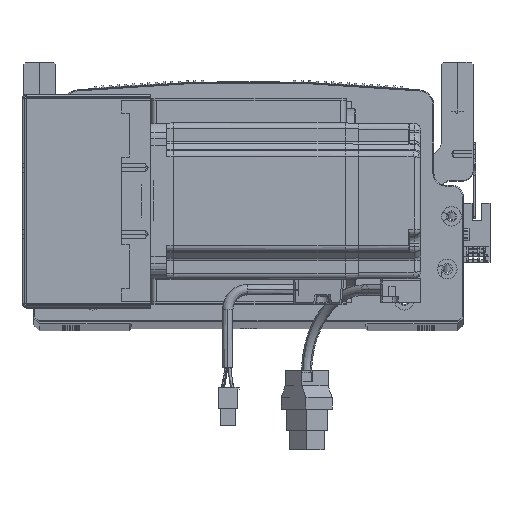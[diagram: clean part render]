
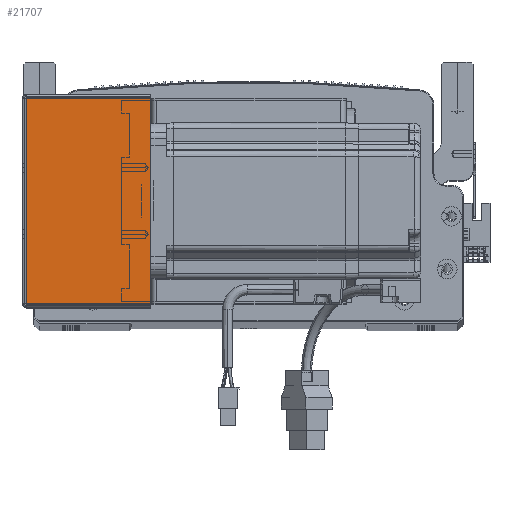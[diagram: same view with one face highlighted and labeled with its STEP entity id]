
A CAD part, top view. The second image highlights one B-rep face of the part: STEP entity #21707.
In plain terms, the highlighted planar face has unit normal (0, 0, 1) as drawn and (0, 0, -1) by its records, which use the part's own axes.
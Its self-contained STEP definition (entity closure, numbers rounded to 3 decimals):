
#4156 = LINE ( 'NONE', #41193, #11986 ) ;
#6435 = VERTEX_POINT ( 'NONE', #11183 ) ;
#10504 = CARTESIAN_POINT ( 'NONE',  ( 64.5, 105.293, -205.5 ) ) ;
#11183 = CARTESIAN_POINT ( 'NONE',  ( 0.737, 0.707, -205.5 ) ) ;
#11986 = VECTOR ( 'NONE', #55589, 1000. ) ;
#13729 = CARTESIAN_POINT ( 'NONE',  ( 0., 0.707, -205.5 ) ) ;
#15544 = VECTOR ( 'NONE', #79931, 1000. ) ;
#19815 = CARTESIAN_POINT ( 'NONE',  ( 64.5, 0.707, -205.5 ) ) ;
#21707 = ADVANCED_FACE ( 'NONE', ( #64806 ), #63257, .F. ) ;
#23237 = CARTESIAN_POINT ( 'NONE',  ( 0., 105.293, -205.5 ) ) ;
#24029 = VECTOR ( 'NONE', #34571, 1000. ) ;
#27389 = CARTESIAN_POINT ( 'NONE',  ( 0., 0., -205.5 ) ) ;
#28593 = VERTEX_POINT ( 'NONE', #19815 ) ;
#34571 = DIRECTION ( 'NONE',  ( 1., 0., 0. ) ) ;
#36279 = EDGE_LOOP ( 'NONE', ( #67419, #83218, #81200, #86901 ) ) ;
#41193 = CARTESIAN_POINT ( 'NONE',  ( 64.5, 0., -205.5 ) ) ;
#41713 = DIRECTION ( 'NONE',  ( 1., 0., 0. ) ) ;
#42011 = DIRECTION ( 'NONE',  ( 0., 0., 1. ) ) ;
#43933 = VERTEX_POINT ( 'NONE', #10504 ) ;
#47328 = LINE ( 'NONE', #60512, #61829 ) ;
#49235 = CARTESIAN_POINT ( 'NONE',  ( 0.737, 105.293, -205.5 ) ) ;
#50492 = EDGE_CURVE ( 'NONE', #43933, #28593, #4156, .T. ) ;
#51043 = VERTEX_POINT ( 'NONE', #49235 ) ;
#52338 = EDGE_CURVE ( 'NONE', #51043, #6435, #47328, .T. ) ;
#55589 = DIRECTION ( 'NONE',  ( 0., -1., 0. ) ) ;
#55729 = LINE ( 'NONE', #23237, #15544 ) ;
#60512 = CARTESIAN_POINT ( 'NONE',  ( 0.737, 0., -205.5 ) ) ;
#60806 = DIRECTION ( 'NONE',  ( 0., -1., 0. ) ) ;
#61829 = VECTOR ( 'NONE', #60806, 1000. ) ;
#63257 = PLANE ( 'NONE',  #85056 ) ;
#64806 = FACE_OUTER_BOUND ( 'NONE', #36279, .T. ) ;
#67419 = ORIENTED_EDGE ( 'NONE', *, *, #52338, .F. ) ;
#70863 = LINE ( 'NONE', #13729, #24029 ) ;
#76962 = EDGE_CURVE ( 'NONE', #51043, #43933, #55729, .T. ) ;
#79931 = DIRECTION ( 'NONE',  ( 1., 0., 0. ) ) ;
#81200 = ORIENTED_EDGE ( 'NONE', *, *, #50492, .T. ) ;
#83218 = ORIENTED_EDGE ( 'NONE', *, *, #76962, .T. ) ;
#85056 = AXIS2_PLACEMENT_3D ( 'NONE', #27389, #42011, #41713 ) ;
#86901 = ORIENTED_EDGE ( 'NONE', *, *, #87476, .F. ) ;
#87476 = EDGE_CURVE ( 'NONE', #6435, #28593, #70863, .T. ) ;
